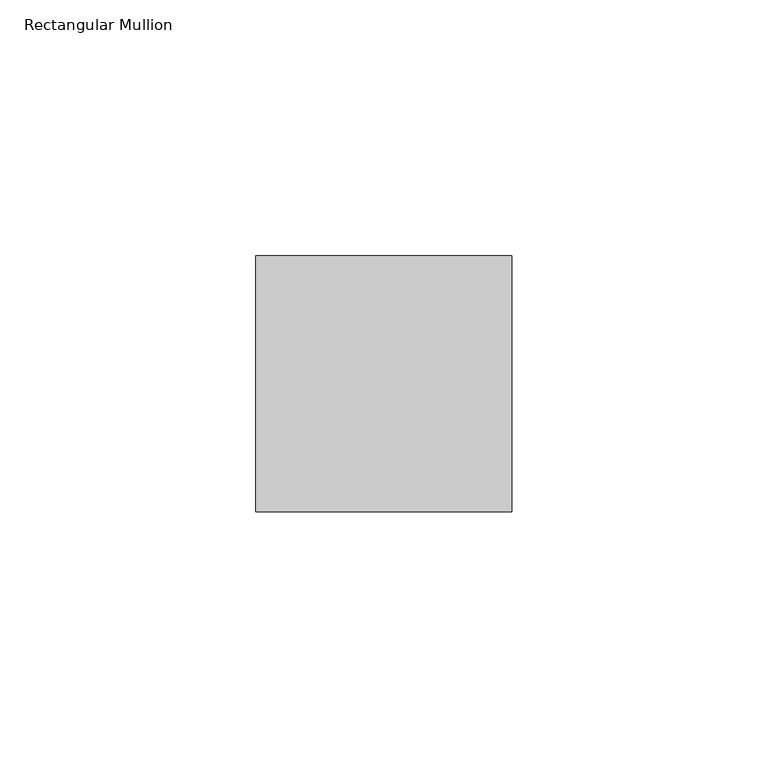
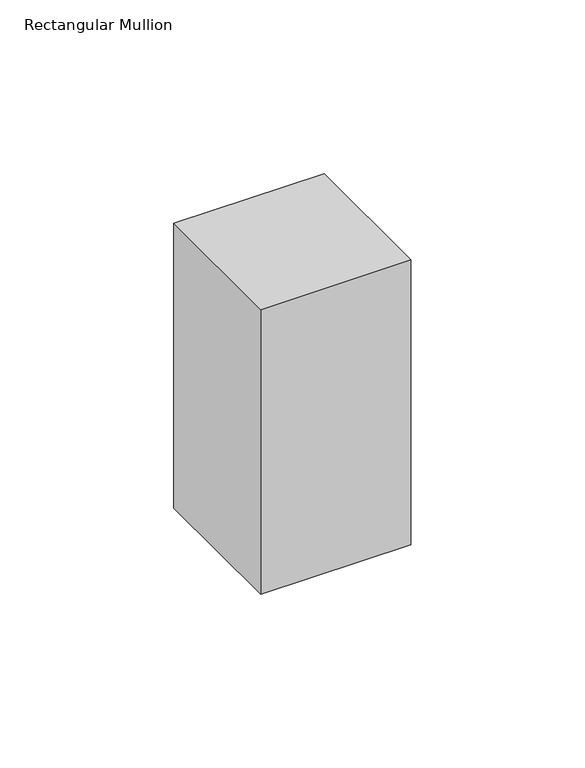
"""IFC4 building model written with IfcOpenShell, lengths in millimetres: member geometry, Rectangular Mullion : RSen_21_CWM_support profile 50x50 - right_gen_duco projects."""

from ifc_helpers import new_model, si_unit, frame, origin, place, context, project, spatial, polyline, outline, extrude, source, transform, mapped, element, save


def rectangular_mullion_a3e25429(model_context):
    return source(origin(), model_context, "Body", "SweptSolid", [
        extrude(outline(polyline([(-50.0, 1.0), (0.0, 1.0), (0.0, -49.0), (-50.0, -49.0), (-50.0, 1.0)])), frame((0.0, 0.0, -100.0), z_axis=(0.0, 0.0, 1.0), x_axis=(1.0, 0.0, 0.0)), (0.0, 0.0, 1.0), 100.0),
    ])


if __name__ == "__main__":
    model = new_model("IFC4")
    model_context = context("Model", 3, world=origin())
    ifc_project = project(units=[si_unit("LENGTHUNIT", "METRE", prefix="MILLI")], contexts=[model_context])
    site = spatial("IfcSite", under=ifc_project)
    building = spatial("IfcBuilding", under=site)
    placement = place(None, origin())
    rectangular_mullion_shape = rectangular_mullion_a3e25429(model_context)
    element("IfcMember", 1, ObjectType="Rectangular Mullion : RSen_21_CWM_support profile 50x50 - right_gen_duco projects", at=placement, inside=building, context=model_context, shape_type="MappedRepresentation", body=[
        mapped(rectangular_mullion_shape, transform((0.0, 0.0, 0.0), x_axis=(1.0, 0.0, 0.0), y_axis=(0.0, 1.0, 0.0), z_axis=(0.0, 0.0, 1.0))),
    ])
    save(model, "model.ifc")
